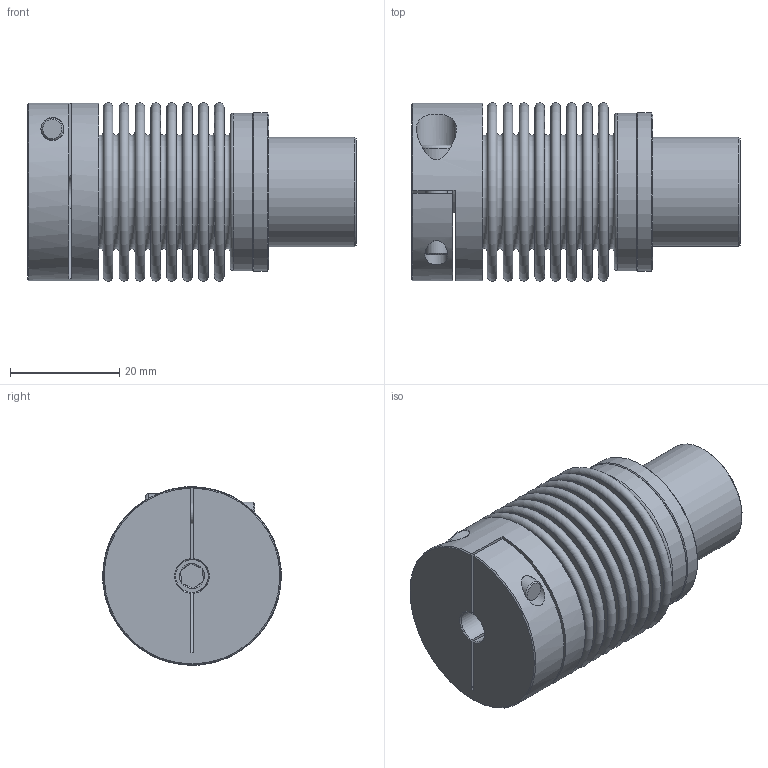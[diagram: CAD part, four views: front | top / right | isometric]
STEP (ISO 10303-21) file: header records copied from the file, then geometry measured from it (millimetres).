
FILE_DESCRIPTION( ( 'Unknown' ), '1' );
FILE_NAME( 'K:/Konstruktion/cad kunden/3D - Daten/KB3/KB3-45-44.stp', 'Unknown', ( 'Unknown' ), ( 'Unknown' ), 'PSStep 16.0.42', 'Unknown', ' ' );
FILE_SCHEMA( ( 'AUTOMOTIVE_DESIGN { 1 0 10303 214 1 1 1 1 }' ) );
Length unit declared in the file: millimetre
Products named in the file (6): Assem1; KN45_Standard_2; SN45; ISO EN DIN 4762 M4x16; ISO EN DIN 4762 M5x20; BL45_Standard_0
Assembly tree (5 placements, depth 2):
  Assem1
    KN45_Standard_2
    SN45
    ISO EN DIN 4762 M4x16
    ISO EN DIN 4762 M5x20
    BL45_Standard_0
Bounding box: 60 x 32.6 x 32.6 mm (x, y, z)
Volume: 22082.7 mm3; surface area: 29277.3 mm2
Topology: 5 solids, 5 shells, 160 faces, 285 edges, 179 vertices
Faces by surface type: plane 75, torus 43, cylinder 21, cone 21
Full cylindrical faces by diameter (mm): 3.5 x1, 4 x3, 4.2 x1, 5 x1, 5.5 x1, 6 x1, 7 x1, 7.3 x1, 8.5 x1, 20 x1, 28.2 x3, 28.8 x2, 29 x1, 32.5 x1
Entity records: 5124 total; most frequent: CARTESIAN_POINT 792, DIRECTION 663, ORIENTED_EDGE 416, AXIS2_PLACEMENT_3D 310, EDGE_LOOP 282, FACE_OUTER_BOUND 222, EDGE_CURVE 208, VERTEX_POINT 186
